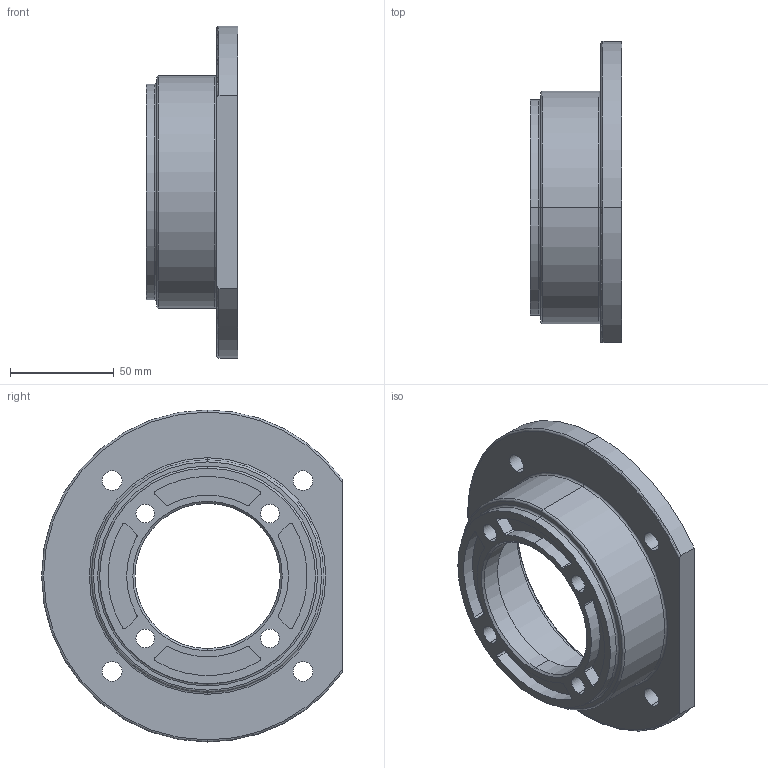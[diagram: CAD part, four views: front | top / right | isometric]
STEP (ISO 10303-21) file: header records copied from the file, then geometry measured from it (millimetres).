
FILE_DESCRIPTION (( 'STEP AP203' ), '1' );
FILE_NAME ('FCN 050-FC.STEP', '2017-01-19T05:45:58', ( 'jsk-23' ), ( 'hx' ), 'SwSTEP 2.0', 'SolidWorks 2012', '' );
FILE_SCHEMA (( 'CONFIG_CONTROL_DESIGN' ));
Length unit declared in the file: millimetre
Products named in the file (1): FCN 050-FC
Bounding box: 44 x 145 x 160 mm (x, y, z)
Volume: 157713.7 mm3; surface area: 68033.1 mm2
Topology: 1 solids, 1 shells, 175 faces, 457 edges, 300 vertices
Faces by surface type: cylinder 115, plane 45, torus 11, cone 4
Entity records: 5625 total; most frequent: DIRECTION 1062, CARTESIAN_POINT 955, ORIENTED_EDGE 914, EDGE_CURVE 457, AXIS2_PLACEMENT_3D 431, VERTEX_POINT 300, CIRCLE 255, EDGE_LOOP 209
